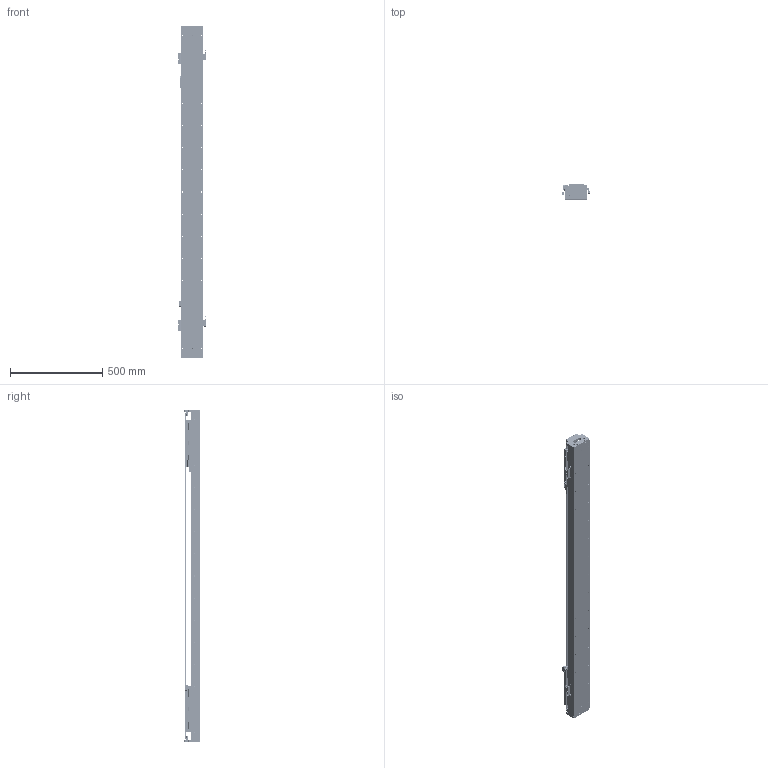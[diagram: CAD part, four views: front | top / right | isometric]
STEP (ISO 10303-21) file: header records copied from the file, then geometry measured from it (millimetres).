
FILE_DESCRIPTION (( 'STEP AP203' ), '1' );
FILE_NAME ('DKW120-2×B3-W060（T1160-L005-0.2）.STEP', '2021-09-28T08:09:21', ( '微软用户' ), ( '微软中国' ), 'SwSTEP 2.0', 'SolidWorks 2018', '' );
FILE_SCHEMA (( 'CONFIG_CONTROL_DESIGN' ));
Length unit declared in the file: millimetre
Products named in the file (22): DKW120-2×B3-W060（T1160-L005-0.2）; DKW119-RU-DTJ-00 RU2黍杅芛盓殤; 10940-0001-004-00 120詩湍裔啣; 10980-0001-003-00 嫖萇羲壽嘐隅釱; 砎蝶猾沭; DKW-SG-GYP-H-00 嫖萇覜茼え; 12160-0000-003-00 DKW120詩湍嶺輸; EE_SX674A; 12160-0000-004-00  DKW120詩湍揤輸; DKW120-B15-T300-DZ-00 菁釱; B3-W060_00; DKW120 单轴模组-拉钢带组件; MSB15-DG-U; DKW-DG-XJ-Z-00 笢潔滅袉砎蝶; BKMA01-W060-TRL280; 06652-0001-001-00 DKW120傷啣; DKW-GYP-ZJ-00 笢潔嫖萇覜茼え; RUS嫖掑喜; 06652-0001-004-00 DKW120嶺輸菜輸; DKW-KGZ-ZJ-00 中间光电开关支架; Ru2; DKW-HXJ-JY-00 遣喳砎蝶
Assembly tree (41 placements, depth 3):
  DKW120-2×B3-W060（T1160-L005-0.2）
    DKW120-B15-T300-DZ-00 菁釱
    MSB15-DG-U  x2
    DKW120 单轴模组-拉钢带组件
      06652-0001-001-00 DKW120傷啣  x2
      06652-0001-004-00 DKW120嶺輸菜輸  x4
      DKW-HXJ-JY-00 遣喳砎蝶  x4
      10940-0001-004-00 120詩湍裔啣
      砎蝶猾沭  x2
      12160-0000-003-00 DKW120詩湍嶺輸  x2
      12160-0000-004-00  DKW120詩湍揤輸  x2
    BKMA01-W060-TRL280
    RUS嫖掑喜
    Ru2  x2
    DKW119-RU-DTJ-00 RU2黍杅芛盓殤  x2
    10980-0001-003-00 嫖萇羲壽嘐隅釱  x2
    DKW-SG-GYP-H-00 嫖萇覜茼え  x2
    EE_SX674A  x5
    B3-W060_00  x2
    DKW-DG-XJ-Z-00 笢潔滅袉砎蝶
    DKW-GYP-ZJ-00 笢潔嫖萇覜茼え
    DKW-KGZ-ZJ-00 中间光电开关支架
Bounding box: 154.1 x 84 x 1796 mm (x, y, z)
Volume: 7323911.8 mm3; surface area: 2727405.4 mm2
Topology: 60 solids, 158 shells, 6452 faces, 17410 edges, 11195 vertices
Faces by surface type: plane 3538, cylinder 1900, cone 520, bspline 494
Entity records: 138162 total; most frequent: CARTESIAN_POINT 47486, ORIENTED_EDGE 18701, DIRECTION 17434, EDGE_CURVE 9391, VERTEX_POINT 6157, AXIS2_PLACEMENT_3D 5814, VECTOR 5806, LINE 5806
